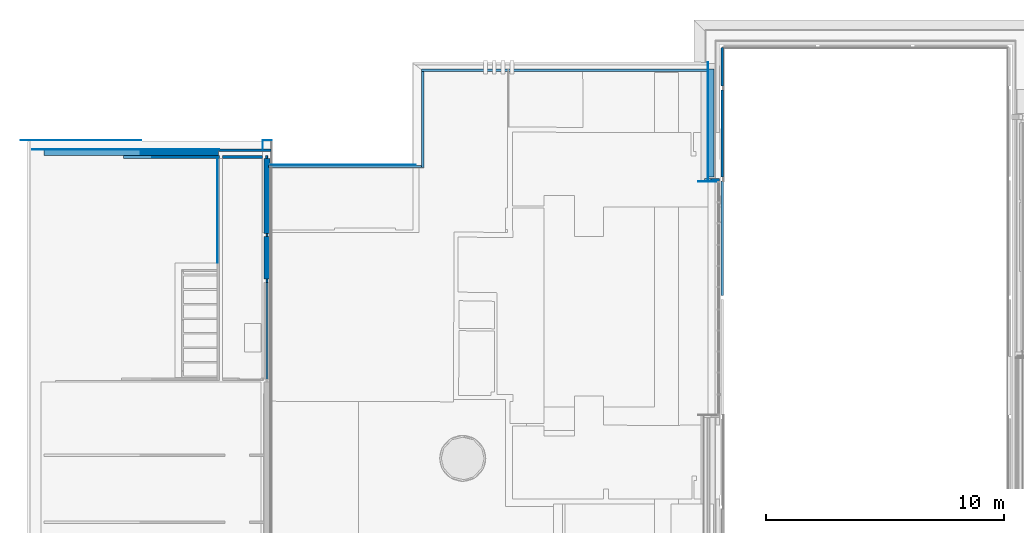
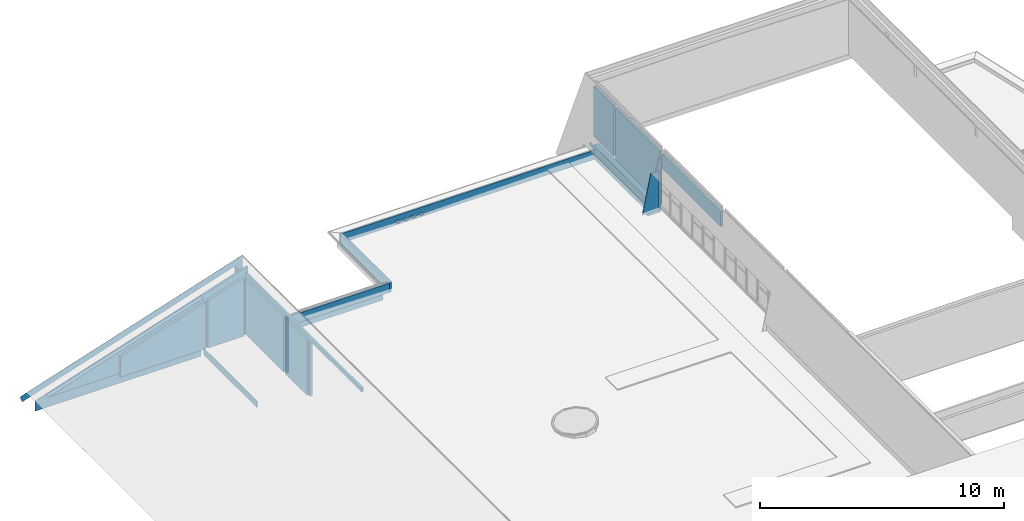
# One storey, part 36 of 66: 26 walls, 4 openings.
"""IFC2X3 building model written with IfcOpenShell, lengths in millimetres."""

from ifc_helpers import new_model, entity, si_unit, converted_unit, derived_unit, direction, frame, frame_2d, origin, place, context, subcontext, project, spatial, polyline, rectangle, outline, extrude, clip, halfspace, material, layer, layer_set, layer_usage, type_object, element, save


model = new_model("IFC2X3")

# Units and contexts
model_context = context("Model", 3, precision=0.01, world=origin(), true_north=direction((6.12303176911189e-17, 1.0)))
body_context = subcontext(model_context, "Body", "Model", "MODEL_VIEW")
ifc_project = project(units=[si_unit("LENGTHUNIT", "METRE", prefix="MILLI"), si_unit("AREAUNIT", "SQUARE_METRE"), si_unit("VOLUMEUNIT", "CUBIC_METRE"), converted_unit("PLANEANGLEUNIT", "DEGREE", entity("IfcRatioMeasure", 0.0174532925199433), si_unit("PLANEANGLEUNIT", "RADIAN"), dimensions=[0, 0, 0, 0, 0, 0, 0]), si_unit("MASSUNIT", "GRAM", prefix="KILO"), derived_unit("MASSDENSITYUNIT", [(si_unit("MASSUNIT", "GRAM", prefix="KILO"), 1), (si_unit("LENGTHUNIT", "METRE"), -3)]), derived_unit("MOMENTOFINERTIAUNIT", [(si_unit("LENGTHUNIT", "METRE"), 4)]), si_unit("TIMEUNIT", "SECOND"), si_unit("FREQUENCYUNIT", "HERTZ"), si_unit("THERMODYNAMICTEMPERATUREUNIT", "DEGREE_CELSIUS"), derived_unit("THERMALTRANSMITTANCEUNIT", [(si_unit("MASSUNIT", "GRAM", prefix="KILO"), 1), (si_unit("THERMODYNAMICTEMPERATUREUNIT", "KELVIN"), -1), (si_unit("TIMEUNIT", "SECOND"), -3)]), derived_unit("VOLUMETRICFLOWRATEUNIT", [(si_unit("LENGTHUNIT", "METRE"), 3), (si_unit("TIMEUNIT", "SECOND"), -1)]), si_unit("ELECTRICCURRENTUNIT", "AMPERE"), si_unit("ELECTRICVOLTAGEUNIT", "VOLT"), si_unit("POWERUNIT", "WATT"), si_unit("FORCEUNIT", "NEWTON", prefix="KILO"), si_unit("ILLUMINANCEUNIT", "LUX"), si_unit("LUMINOUSFLUXUNIT", "LUMEN"), si_unit("LUMINOUSINTENSITYUNIT", "CANDELA"), derived_unit("USERDEFINED", [(si_unit("MASSUNIT", "GRAM", prefix="KILO"), -1), (si_unit("LENGTHUNIT", "METRE"), -2), (si_unit("TIMEUNIT", "SECOND"), 3), (si_unit("LUMINOUSFLUXUNIT", "LUMEN"), 1)]), derived_unit("LINEARVELOCITYUNIT", [(si_unit("LENGTHUNIT", "METRE"), 1), (si_unit("TIMEUNIT", "SECOND"), -1)]), si_unit("PRESSUREUNIT", "PASCAL"), derived_unit("USERDEFINED", [(si_unit("LENGTHUNIT", "METRE"), -2), (si_unit("MASSUNIT", "GRAM", prefix="KILO"), 1), (si_unit("TIMEUNIT", "SECOND"), -2)]), derived_unit("LINEARFORCEUNIT", [(si_unit("MASSUNIT", "GRAM", prefix="KILO"), 1), (si_unit("LENGTHUNIT", "METRE"), 1), (si_unit("TIMEUNIT", "SECOND"), -2), (si_unit("LENGTHUNIT", "METRE"), -1)]), derived_unit("PLANARFORCEUNIT", [(si_unit("MASSUNIT", "GRAM", prefix="KILO"), 1), (si_unit("LENGTHUNIT", "METRE"), 1), (si_unit("TIMEUNIT", "SECOND"), -2), (si_unit("LENGTHUNIT", "METRE"), -2)])], contexts=[model_context])

# Site, building, storey
site_placement = place(None, origin())
site = spatial("IfcSite", under=ifc_project, at=site_placement, Name="Default", CompositionType="ELEMENT")
building_placement = place(site_placement, origin())
building = spatial("IfcBuilding", under=site, at=building_placement, Name="-", CompositionType="ELEMENT")
storey_placement = place(building_placement, frame((0.0, 0.0, 3070.0)))
storey = spatial("IfcBuildingStorey", under=building, at=storey_placement, Name="01 eerste verdieping", CompositionType="ELEMENT", Elevation=3070.00000000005)

# Walls
ifc_material_1 = material(Name="NLRS_f1_kalkzandsteen_CS20")
ifc_layer_1 = layer(ifc_material_1, 120.0)
ifc_layer_set_1 = layer_set([ifc_layer_1], Name="Basic Wall:NLRS_21_WA_kalkzandsteen_120mm_CS20_gen_aly")
ifc_layer_usage_1 = layer_usage(ifc_layer_set_1, "AXIS2", "POSITIVE", -60.0)
wall_type_1 = type_object("IfcWallType", Name="Basic Wall:NLRS_21_WA_kalkzandsteen_120mm_CS20_gen_aly", PredefinedType="STANDARD", material=ifc_layer_set_1)
wall_1_placement = place(storey_placement, frame((3633.34827372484, 37310.9865767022, -94.0)))
element("IfcWallStandardCase", 1, at=wall_1_placement, inside=storey, type_object=wall_type_1, material=ifc_layer_usage_1, Name="Basic Wall:NLRS_21_WA_kalkzandsteen_120mm_CS20_gen_aly", ObjectType="Basic Wall:NLRS_21_WA_kalkzandsteen_120mm_CS20_gen_aly", context=body_context, shape_type="Clipping", body=[
    clip(extrude(rectangle(XDim=4036.68199570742, YDim=119.999999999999, at=frame_2d((2018.34099785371, -7.46069872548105e-14), x_axis=(-1.0, 0.0))), origin(), (0.0, 0.0, 1.0), 2332.78274017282), halfspace(frame((0.0, -60.0, 1021.85168606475), z_axis=(-0.308874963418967, 0.0, 0.951102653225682), x_axis=(0.0, 1.0, 0.0)), False)),
])
ifc_layer_usage_2 = layer_usage(ifc_layer_set_1, "AXIS2", "POSITIVE", -60.0)
wall_2_placement = place(storey_placement, frame((7780.03026943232, 37310.9865767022, -94.0)))
element("IfcWallStandardCase", 2, at=wall_2_placement, inside=storey, type_object=wall_type_1, material=ifc_layer_usage_2, Name="Basic Wall:NLRS_21_WA_kalkzandsteen_120mm_CS20_gen_aly", ObjectType="Basic Wall:NLRS_21_WA_kalkzandsteen_120mm_CS20_gen_aly", context=body_context, shape_type="Clipping", body=[
    clip(extrude(rectangle(XDim=1692.78773486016, YDim=119.999999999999, at=frame_2d((846.393867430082, 0.0), x_axis=(-1.0, 0.0))), origin(), (0.0, 0.0, 1.0), 2918.8413293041), halfspace(frame((0.0, -60.0, 2368.92824654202), z_axis=(-0.308962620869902, 0.0, 0.951074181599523), x_axis=(0.0, 1.0, 0.0)), False)),
])
ifc_material_2 = material(Name="NLRS_i4_hout_multiplex")
ifc_layer_2 = layer(ifc_material_2, 9.0)
ifc_material_3 = material(Name="NLRS_m1_isolatie")
ifc_layer_3 = layer(ifc_material_3, 89.0)
ifc_layer_4 = layer(ifc_material_2, 9.0)
ifc_layer_set_2 = layer_set([ifc_layer_2, ifc_layer_3, ifc_layer_4], Name="Basic Wall:NLRS_21_WA_HSB-wand_110mm")
ifc_layer_usage_3 = layer_usage(ifc_layer_set_2, "AXIS2", "NEGATIVE", 53.5)
wall_type_2 = type_object("IfcWallType", Name="Basic Wall:NLRS_21_WA_HSB-wand_110mm", PredefinedType="STANDARD", material=ifc_layer_set_2)
wall_3_placement = place(storey_placement, frame((28025.9009154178, 36342.555345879, 0.0)))
element("IfcWallStandardCase", 3, at=wall_3_placement, inside=storey, type_object=wall_type_2, material=ifc_layer_usage_3, Name="Basic Wall:NLRS_21_WA_HSB-wand_110mm", ObjectType="Basic Wall:NLRS_21_WA_HSB-wand_110mm", context=body_context, shape_type="Clipping", body=[
    clip(clip(extrude(rectangle(XDim=632.099084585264, YDim=107.000000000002, at=frame_2d((316.049542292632, 0.0), x_axis=(-1.0, 0.0))), origin(), (0.0, 0.0, 1.0), 2714.0), halfspace(frame((0.0, -53.5000000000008, 0.0), z_axis=(-0.979575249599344, 0.0, 0.201077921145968), x_axis=(0.0, 1.0, 0.0)), False)), halfspace(frame((557.104192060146, -53.5000000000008, 2714.0), z_axis=(0.0, 0.0, 1.0), x_axis=(0.0, 1.0, 0.0)), False)),
])
ifc_layer_usage_4 = layer_usage(ifc_layer_set_2, "AXIS2", "POSITIVE", -53.5)
wall_4_placement = place(storey_placement, frame((28761.5007123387, 36465.8619953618, 245.0), z_axis=(0.0, 0.0, 1.0), x_axis=(0.0, 1.0, 0.0)))
element("IfcWallStandardCase", 4, at=wall_4_placement, inside=storey, type_object=wall_type_2, material=ifc_layer_usage_4, Name="Basic Wall:NLRS_21_WA_HSB-wand_110mm", ObjectType="Basic Wall:NLRS_21_WA_HSB-wand_110mm", context=body_context, shape_type="SweptSolid", body=[
    extrude(rectangle(XDim=3660.0, YDim=107.000000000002, at=frame_2d((1830.0, 0.0), x_axis=(-1.0, 0.0))), origin(), (0.0, 0.0, 1.0), 2633.52593752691),
])
ifc_layer_usage_5 = layer_usage(ifc_layer_set_2, "AXIS2", "POSITIVE", -53.5)
wall_5_placement = place(storey_placement, frame((28761.500000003, 40286.8575638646, 345.0), z_axis=(0.0, 0.0, 1.0), x_axis=(0.0, 1.0, 0.0)))
element("IfcWallStandardCase", 5, at=wall_5_placement, inside=storey, type_object=wall_type_2, material=ifc_layer_usage_5, Name="Basic Wall:NLRS_21_WA_HSB-wand_110mm", ObjectType="Basic Wall:NLRS_21_WA_HSB-wand_110mm", context=body_context, shape_type="SweptSolid", body=[
    extrude(rectangle(XDim=1610.9626866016, YDim=107.000000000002, at=frame_2d((805.481343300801, -1.09068309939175e-12), x_axis=(-1.0, 0.0))), origin(), (0.0, 0.0, 1.0), 2533.52593752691),
])
ifc_layer_usage_6 = layer_usage(ifc_layer_set_2, "AXIS2", "POSITIVE", -53.5)
wall_6_placement = place(storey_placement, frame((28761.500000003, 31494.8202504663, 2143.30371120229), z_axis=(0.0, 0.0, 1.0), x_axis=(0.0, 1.0, 0.0)))
element("IfcWallStandardCase", 6, at=wall_6_placement, inside=storey, type_object=wall_type_2, material=ifc_layer_usage_6, Name="Basic Wall:NLRS_21_WA_HSB-wand_110mm", ObjectType="Basic Wall:NLRS_21_WA_HSB-wand_110mm", context=body_context, shape_type="SweptSolid", body=[
    extrude(rectangle(XDim=4811.99999999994, YDim=107.000000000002, at=frame_2d((2405.99999999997, -7.7804429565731e-13), x_axis=(-1.0, 0.0))), origin(), (0.0, 0.0, 1.0), 735.222226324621),
])
ifc_material_4 = material(Name="NLRS_g2_baksteen hf-225x105x42-10mm voeg halfsteens rood genuanceerd_gen")
ifc_layer_5 = layer(ifc_material_4, 100.0)
ifc_layer_set_3 = layer_set([ifc_layer_5], Name="Basic Wall:NLRS_20_WA_Metselwerk 100mm, Eems wf-p-0081-25")
ifc_layer_usage_7 = layer_usage(ifc_layer_set_3, "AXIS2", "POSITIVE", -50.0)
wall_type_3 = type_object("IfcWallType", Name="Basic Wall:NLRS_20_WA_Metselwerk 100mm, Eems wf-p-0081-25", PredefinedType="STANDARD", material=ifc_layer_set_3)
wall_7_placement = place(storey_placement, frame((9825.0, 37595.4865767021, -263.0), z_axis=(0.0, 0.0, 1.0), x_axis=(-1.0, 0.0, 0.0)))
element("IfcWallStandardCase", 7, at=wall_7_placement, inside=storey, type_object=wall_type_3, material=ifc_layer_usage_7, Name="Basic Wall:NLRS_20_WA_Metselwerk 100mm, Eems wf-p-0081-25", ObjectType="Basic Wall:NLRS_20_WA_Metselwerk 100mm, Eems wf-p-0081-25", context=body_context, shape_type="Clipping", body=[
    clip(extrude(rectangle(XDim=2173.65172627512, YDim=100.000000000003, at=frame_2d((1086.82586313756, 0.0), x_axis=(-1.0, 0.0))), origin(), (0.0, 0.0, 1.0), 3359.2461458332), halfspace(frame((0.0, -50.0, 3359.2461458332), z_axis=(0.309016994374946, 0.0, 0.951056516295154), x_axis=(0.0, 1.0, 0.0)), False)),
])
ifc_material_5 = material(Name="AL Houten gevelbekleding staand")
ifc_layer_6 = layer(ifc_material_5, 20.0)
ifc_layer_set_4 = layer_set([ifc_layer_6], Name="Basic Wall:NLRS_42_WA_Houten gevelbekleding staand 20mm")
ifc_layer_usage_8 = layer_usage(ifc_layer_set_4, "AXIS2", "NEGATIVE", 10.0)
wall_type_4 = type_object("IfcWallType", Name="Basic Wall:NLRS_42_WA_Houten gevelbekleding staand 20mm", PredefinedType="STANDARD", material=ifc_layer_set_4)
wall_8_placement = place(storey_placement, frame((7651.34827372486, 37624.4865767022, -678.0), z_axis=(0.0, 0.0, 1.0), x_axis=(-1.0, 0.0, 0.0)))
element("IfcWallStandardCase", 8, at=wall_8_placement, inside=storey, type_object=wall_type_4, material=ifc_layer_usage_8, Name="Basic Wall:NLRS_42_WA_Houten gevelbekleding staand 20mm", ObjectType="Basic Wall:NLRS_42_WA_Houten gevelbekleding staand 20mm", context=body_context, shape_type="Clipping", body=[
    clip(extrude(rectangle(XDim=7851.6057129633, YDim=20.0000000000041, at=frame_2d((3925.80285648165, 0.0), x_axis=(-1.0, 0.0))), origin(), (0.0, 0.0, 1.0), 3067.95673031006), halfspace(frame((0.0, -10.0, 3067.95673031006), z_axis=(0.309016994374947, 0.0, 0.951056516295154), x_axis=(0.0, 1.0, 0.0)), False)),
])

# Wall, openings
ifc_material_6 = material(Name="h7_zink zwart")
ifc_layer_7 = layer(ifc_material_6, 3.0)
ifc_layer_set_5 = layer_set([ifc_layer_7], Name="Basic Wall:NLRS_42_WA_beplating_zijkant hellend dak")
ifc_layer_usage_9 = layer_usage(ifc_layer_set_5, "AXIS2", "NEGATIVE", 1.5)
wall_type_5 = type_object("IfcWallType", Name="Basic Wall:NLRS_42_WA_beplating_zijkant hellend dak", PredefinedType="STANDARD", material=ifc_layer_set_5)
wall_9_placement = place(storey_placement, frame((9848.0, 38009.102151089, -370.0), z_axis=(0.0, 0.0, 1.0), x_axis=(-1.0, 0.0, 0.0)))
wall_9 = element("IfcWallStandardCase", 9, at=wall_9_placement, inside=storey, type_object=wall_type_5, material=ifc_layer_usage_9, Name="Basic Wall:NLRS_42_WA_beplating_zijkant hellend dak", ObjectType="Basic Wall:NLRS_42_WA_beplating_zijkant hellend dak", context=body_context, shape_type="Clipping", body=[
    clip(clip(extrude(rectangle(XDim=10532.6511361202, YDim=2.99999999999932, at=frame_2d((5266.32556806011, -4.96380714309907e-13), x_axis=(-1.0, 0.0))), origin(), (0.0, 0.0, 1.0), 3760.7684860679), halfspace(frame((0.0, -1.49999999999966, 3760.7684860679), z_axis=(0.309016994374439, 0.0, 0.951056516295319), x_axis=(0.0, 1.0, 0.0)), False)), halfspace(frame((10532.6511361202, 1.49999999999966, 338.502678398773), z_axis=(0.951056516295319, 0.0, -0.309016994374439), x_axis=(0.0, 1.0, 0.0)), False)),
])
opening_1_placement = place(wall_9_placement, origin())
element("IfcOpeningElement", 10, at=opening_1_placement, cuts=wall_9, Name="Basic Wall:NLRS_42_WA_beplating_zijkant hellend dak", ObjectType="Opening", context=body_context, shape_type="SweptSolid", body=[
    extrude(outline(polyline([(-4121.78263074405, -1105.76989291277), (7165.70600836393, -1105.76989291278), (-3043.92337761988, 2211.53978582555), (-4121.78263074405, -1105.76989291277)])), frame((3949.34654094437, -4537.61673908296, 994.675271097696), z_axis=(0.0, 1.0, 0.0), x_axis=(0.951056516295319, 0.0, -0.309016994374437)), (0.0, 0.0, 1.0), 30117.0947947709),
])
opening_2_placement = place(wall_9_placement, origin())
element("IfcOpeningElement", 11, at=opening_2_placement, cuts=wall_9, Name="Basic Wall:NLRS_42_WA_beplating_zijkant hellend dak", ObjectType="Opening", context=body_context, shape_type="SweptSolid", body=[
    extrude(rectangle(XDim=32.9527597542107, YDim=550.218991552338, at=frame_2d((-2.70006239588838e-13, 0.0), x_axis=(1.0, 0.0))), frame((275.109495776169, 1.49999999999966, -16.4763798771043), z_axis=(0.0, -1.0, 0.0), x_axis=(0.0, 0.0, 1.0)), (0.0, 0.0, 1.0), 3.0),
])

# Walls
ifc_layer_usage_10 = layer_usage(ifc_layer_set_5, "AXIS2", "NEGATIVE", 1.5)
wall_10_placement = place(storey_placement, frame((9478.5, 37620.9865767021, -370.0), z_axis=(0.0, 0.0, 1.0), x_axis=(0.0, 1.0, 0.0)))
element("IfcWallStandardCase", 12, at=wall_10_placement, inside=storey, type_object=wall_type_5, material=ifc_layer_usage_10, Name="Basic Wall:NLRS_42_WA_beplating_zijkant hellend dak", ObjectType="Basic Wall:NLRS_42_WA_beplating_zijkant hellend dak", context=body_context, shape_type="SweptSolid", body=[
    extrude(rectangle(XDim=386.615574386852, YDim=2.99999999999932, at=frame_2d((193.307787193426, -1.0502709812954e-13), x_axis=(-1.0, 0.0))), origin(), (0.0, 0.0, 1.0), 3315.3357916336),
])
ifc_material_7 = material(Name="n6_kunststof_RAL 7035")
ifc_layer_8 = layer(ifc_material_7, 10.0)
ifc_layer_set_6 = layer_set([ifc_layer_8], Name="Basic Wall:NLRS_42_WA_Trespa RAL 7035 - 10mm")
ifc_layer_usage_11 = layer_usage(ifc_layer_set_6, "AXIS2", "NEGATIVE", 5.0)
wall_type_6 = type_object("IfcWallType", Name="Basic Wall:NLRS_42_WA_Trespa RAL 7035 - 10mm", PredefinedType="STANDARD", material=ifc_layer_set_6)
wall_11_placement = place(storey_placement, frame((9825.0, 36986.9865767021, -370.0)))
element("IfcWallStandardCase", 13, at=wall_11_placement, inside=storey, type_object=wall_type_6, material=ifc_layer_usage_11, Name="Basic Wall:NLRS_42_WA_Trespa RAL 7035 - 10mm", ObjectType="Basic Wall:NLRS_42_WA_Trespa RAL 7035 - 10mm", context=body_context, shape_type="SweptSolid", body=[
    extrude(rectangle(XDim=6070.0000000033, YDim=9.99999999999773, at=frame_2d((3035.00000000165, 0.0), x_axis=(-1.0, 0.0))), origin(), (0.0, 0.0, 1.0), 839.099999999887),
])

# Wall, opening
ifc_layer_9 = layer(ifc_material_3, 89.0)
ifc_layer_10 = layer(ifc_material_2, 9.0)
ifc_layer_set_7 = layer_set([ifc_layer_9, ifc_layer_10], Name="Basic Wall:NLRS_21_WA_HSB-wand_98mm")
ifc_layer_usage_12 = layer_usage(ifc_layer_set_7, "AXIS2", "NEGATIVE", 49.0)
wall_type_7 = type_object("IfcWallType", Name="Basic Wall:NLRS_21_WA_HSB-wand_98mm", PredefinedType="STANDARD", material=ifc_layer_set_7)
wall_12_placement = place(storey_placement, frame((16140.0, 40944.7541561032, 0.0)))
wall_12 = element("IfcWallStandardCase", 14, at=wall_12_placement, inside=storey, type_object=wall_type_7, material=ifc_layer_usage_12, Name="Basic Wall:NLRS_21_WA_HSB-wand_98mm", ObjectType="Basic Wall:NLRS_21_WA_HSB-wand_98mm", context=body_context, shape_type="SweptSolid", body=[
    extrude(rectangle(XDim=12033.23013131, YDim=97.999999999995, at=frame_2d((6016.61506565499, 0.0), x_axis=(-1.0, 0.0))), origin(), (0.0, 0.0, 1.0), 469.100000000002),
])
opening_3_placement = place(wall_12_placement, origin())
element("IfcOpeningElement", 15, at=opening_3_placement, cuts=wall_12, Name="Basic Wall:NLRS_21_WA_HSB-wand_98mm", ObjectType="Opening", context=body_context, shape_type="SweptSolid", body=[
    extrude(rectangle(XDim=59.9999999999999, YDim=160.000000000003, at=frame_2d((-2.71782596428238e-13, 0.0), x_axis=(1.0, 0.0))), frame((3058.0, -305.0, 178.000767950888), z_axis=(0.0, 1.0, 0.0), x_axis=(0.0, 0.0, -1.0)), (0.0, 0.0, 1.0), 854.719401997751),
    extrude(rectangle(XDim=59.9999999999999, YDim=160.000000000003, at=frame_2d((4.33431068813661e-12, 2.71782596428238e-13), x_axis=(0.0, 1.0))), frame((3428.0, -305.0, 178.000767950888), z_axis=(0.0, 1.0, 0.0), x_axis=(1.0, 0.0, 0.0)), (0.0, 0.0, 1.0), 854.719401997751),
    extrude(rectangle(XDim=59.9999999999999, YDim=160.000000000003, at=frame_2d((2.71782596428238e-13, 2.16715534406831e-12), x_axis=(1.0, 0.0))), frame((3798.0, -305.0, 178.000767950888), z_axis=(0.0, 1.0, 0.0), x_axis=(0.0, 0.0, -1.0)), (0.0, 0.0, 1.0), 854.719401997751),
    extrude(rectangle(XDim=59.9999999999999, YDim=160.000000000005, at=frame_2d((-1.08002495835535e-12, -2.71782596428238e-13), x_axis=(0.0, 1.0))), frame((2688.0, -305.0, 178.000767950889), z_axis=(0.0, 1.0, 0.0), x_axis=(1.0, 0.0, 0.0)), (0.0, 0.0, 1.0), 854.719401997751),
])

# Walls
ifc_layer_usage_13 = layer_usage(ifc_layer_set_7, "AXIS2", "NEGATIVE", 49.0)
wall_13_placement = place(storey_placement, frame((16189.0, 36856.9865767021, 0.0), z_axis=(0.0, 0.0, 1.0), x_axis=(0.0, 1.0, 0.0)))
element("IfcWallStandardCase", 16, at=wall_13_placement, inside=storey, type_object=wall_type_7, material=ifc_layer_usage_13, Name="Basic Wall:NLRS_21_WA_HSB-wand_98mm", ObjectType="Basic Wall:NLRS_21_WA_HSB-wand_98mm", context=body_context, shape_type="SweptSolid", body=[
    extrude(rectangle(XDim=4038.76757940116, YDim=97.9999999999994, at=frame_2d((2019.38378970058, -5.89750470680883e-13), x_axis=(-1.0, 0.0))), origin(), (0.0, 0.0, 1.0), 469.100000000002),
])
ifc_layer_usage_14 = layer_usage(ifc_layer_set_7, "AXIS2", "NEGATIVE", 49.0)
wall_14_placement = place(storey_placement, frame((9713.0, 36905.9865767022, 0.0)))
element("IfcWallStandardCase", 17, at=wall_14_placement, inside=storey, type_object=wall_type_7, material=ifc_layer_usage_14, Name="Basic Wall:NLRS_21_WA_HSB-wand_98mm", ObjectType="Basic Wall:NLRS_21_WA_HSB-wand_98mm", context=body_context, shape_type="SweptSolid", body=[
    extrude(rectangle(XDim=6427.0000000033, YDim=98.0000000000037, at=frame_2d((3213.50000000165, -1.22568621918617e-12), x_axis=(-1.0, 0.0))), origin(), (0.0, 0.0, 1.0), 469.100000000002),
])
ifc_layer_usage_15 = layer_usage(ifc_layer_set_7, "AXIS2", "NEGATIVE", 49.0)
wall_15_placement = place(storey_placement, frame((9786.0, 36906.9865767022, 0.0)))
element("IfcWallStandardCase", 18, at=wall_15_placement, inside=storey, type_object=wall_type_7, material=ifc_layer_usage_15, Name="Basic Wall:NLRS_21_WA_HSB-wand_98mm", ObjectType="Basic Wall:NLRS_21_WA_HSB-wand_98mm", context=body_context, shape_type="SweptSolid", body=[
    extrude(rectangle(XDim=6354.00000000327, YDim=98.0000000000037, at=frame_2d((3177.00000000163, -5.79092329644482e-13), x_axis=(-1.0, 0.0))), origin(), (0.0, 0.0, 1.0), 469.100000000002),
])
ifc_layer_11 = layer(ifc_material_2, 18.0)
ifc_layer_set_8 = layer_set([ifc_layer_11], Name="Basic Wall:NLRS_41_WA_plaatmateriaal 18mm_gen_aly")
ifc_layer_usage_16 = layer_usage(ifc_layer_set_8, "AXIS2", "NEGATIVE", 9.0)
wall_type_8 = type_object("IfcWallType", Name="Basic Wall:NLRS_41_WA_plaatmateriaal 18mm_gen_aly", PredefinedType="STANDARD", material=ifc_layer_set_8)
wall_16_placement = place(storey_placement, frame((27757.5921087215, 36280.055345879, 140.0)))
element("IfcWallStandardCase", 19, at=wall_16_placement, inside=storey, type_object=wall_type_8, material=ifc_layer_usage_16, Name="Basic Wall:NLRS_41_WA_plaatmateriaal 18mm_gen_aly", ObjectType="Basic Wall:NLRS_41_WA_plaatmateriaal 18mm_gen_aly", context=body_context, shape_type="Clipping", body=[
    clip(extrude(rectangle(XDim=803.407891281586, YDim=17.9999999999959, at=frame_2d((401.703945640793, 0.0), x_axis=(-1.0, 0.0))), origin(), (0.0, 0.0, 1.0), 1965.30371120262), halfspace(frame((0.0, -9.0, 0.0), z_axis=(-0.979575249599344, 0.0, 0.201077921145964), x_axis=(0.0, 1.0, 0.0)), False)),
])
ifc_layer_12 = layer(ifc_material_2, 10.0)
ifc_layer_13 = layer(ifc_material_3, 235.0)
ifc_layer_14 = layer(ifc_material_2, 10.0)
ifc_layer_set_9 = layer_set([ifc_layer_12, ifc_layer_13, ifc_layer_14], Name="Basic Wall:NLRS_21_WA_HSB-wand_268mm (zonder gips)")
ifc_layer_usage_17 = layer_usage(ifc_layer_set_9, "AXIS2", "NEGATIVE", 127.5)
wall_type_9 = type_object("IfcWallType", Name="Basic Wall:NLRS_21_WA_HSB-wand_268mm (zonder gips)", PredefinedType="STANDARD", material=ifc_layer_set_9)
wall_17_placement = place(storey_placement, frame((9658.5, 37240.9865767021, 0.0), z_axis=(0.0, 0.0, 1.0), x_axis=(0.0, -1.0, 0.0)))
element("IfcWallStandardCase", 20, at=wall_17_placement, inside=storey, type_object=wall_type_9, material=ifc_layer_usage_17, Name="Basic Wall:NLRS_21_WA_HSB-wand_268mm (zonder gips)", ObjectType="Basic Wall:NLRS_21_WA_HSB-wand_268mm (zonder gips)", context=body_context, shape_type="SweptSolid", body=[
    extrude(rectangle(XDim=3133.87320527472, YDim=255.000000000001, at=frame_2d((1566.93660263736, 7.105427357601e-14), x_axis=(-1.0, 0.0))), origin(), (0.0, 0.0, 1.0), 2759.99999999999),
])
ifc_layer_usage_18 = layer_usage(ifc_layer_set_9, "AXIS2", "NEGATIVE", 127.5)
wall_18_placement = place(storey_placement, frame((9658.49999999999, 33967.1133714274, 0.0), z_axis=(0.0, 0.0, 1.0), x_axis=(0.0, -1.0, 0.0)))
element("IfcWallStandardCase", 21, at=wall_18_placement, inside=storey, type_object=wall_type_9, material=ifc_layer_usage_18, Name="Basic Wall:NLRS_21_WA_HSB-wand_268mm (zonder gips)", ObjectType="Basic Wall:NLRS_21_WA_HSB-wand_268mm (zonder gips)", context=body_context, shape_type="SweptSolid", body=[
    extrude(rectangle(XDim=1778.7172156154, YDim=255.000000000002, at=frame_2d((889.358607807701, 5.6843418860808e-13), x_axis=(-1.0, 0.0))), origin(), (0.0, 0.0, 1.0), 2759.99999999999),
])
ifc_layer_15 = layer(ifc_material_3, 200.0)
ifc_layer_set_10 = layer_set([ifc_layer_15], Name="Basic Wall:NLRS_21_WA_isolatie glaswol_200mm_gen_aly")
ifc_layer_usage_19 = layer_usage(ifc_layer_set_10, "AXIS2", "NEGATIVE", 100.0)
wall_type_10 = type_object("IfcWallType", Name="Basic Wall:NLRS_21_WA_isolatie glaswol_200mm_gen_aly", PredefinedType="STANDARD", material=ifc_layer_set_10)
wall_19_placement = place(storey_placement, frame((295.734209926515, 37470.9865767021, 0.0)))
element("IfcWallStandardCase", 22, at=wall_19_placement, inside=storey, type_object=wall_type_10, material=ifc_layer_usage_19, Name="Basic Wall:NLRS_21_WA_isolatie glaswol_200mm_gen_aly", ObjectType="Basic Wall:NLRS_21_WA_isolatie glaswol_200mm_gen_aly", context=body_context, shape_type="Clipping", body=[
    clip(extrude(rectangle(XDim=7333.61406379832, YDim=199.999999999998, at=frame_2d((3666.80703189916, 4.19220214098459e-13), x_axis=(-1.0, 0.0))), origin(), (0.0, 0.0, 1.0), 2382.83565389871), halfspace(frame((0.0, -100.0, 0.0), z_axis=(-0.309016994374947, 0.0, 0.951056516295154), x_axis=(0.0, 1.0, 0.0)), False)),
])

# Wall, opening
ifc_material_8 = material(Name="n2_bitumen_dak bedekking")
ifc_layer_16 = layer(ifc_material_8, 6.0)
ifc_layer_set_11 = layer_set([ifc_layer_16], Name="Basic Wall:47.11_2 laagse APP dakbedekking")
ifc_layer_usage_20 = layer_usage(ifc_layer_set_11, "AXIS2", "NEGATIVE", 3.0)
wall_type_11 = type_object("IfcWallType", Name="Basic Wall:47.11_2 laagse APP dakbedekking", PredefinedType="STANDARD", material=ifc_layer_set_11)
wall_20_placement = place(storey_placement, frame((28170.2301313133, 36289.055345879, 263.661427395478), z_axis=(0.0, 0.0, 1.0), x_axis=(0.0, 1.0, 0.0)))
wall_20 = element("IfcWallStandardCase", 23, at=wall_20_placement, inside=storey, type_object=wall_type_11, material=ifc_layer_usage_20, Name="Basic Wall:47.11_2 laagse APP dakbedekking", ObjectType="Basic Wall:47.11_2 laagse APP dakbedekking", context=body_context, shape_type="SweptSolid", body=[
    extrude(rectangle(XDim=4996.69881022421, YDim=5.99999999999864, at=frame_2d((2498.34940511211, -2.8688162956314e-13), x_axis=(-1.0, 0.0))), origin(), (0.0, 0.0, 1.0), 398.621049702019),
])
opening_4_placement = place(wall_20_placement, origin())
element("IfcOpeningElement", 24, at=opening_4_placement, cuts=wall_20, Name="Basic Wall:47.11_2 laagse APP dakbedekking", ObjectType="Opening", context=body_context, shape_type="SweptSolid", body=[
    extrude(rectangle(XDim=226.338572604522, YDim=393.00000000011, at=frame_2d((4.33431068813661e-12, 0.0), x_axis=(0.0, 1.0))), frame((4800.19881022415, 3.0, 113.169286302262), z_axis=(0.0, -1.0, 0.0), x_axis=(1.0, 0.0, 0.0)), (0.0, 0.0, 1.0), 6.00000000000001),
])

# Walls
ifc_material_9 = material(Name="NLRS_n7_isolatie PIR_gen")
ifc_layer_17 = layer(ifc_material_9, 100.0)
ifc_layer_set_12 = layer_set([ifc_layer_17], Name="Basic Wall:NLRS_22_WA_LB_isolatie PIR 100mm")
ifc_layer_usage_21 = layer_usage(ifc_layer_set_12, "AXIS2", "NEGATIVE", 50.0)
wall_type_12 = type_object("IfcWallType", Name="Basic Wall:NLRS_22_WA_LB_isolatie PIR 100mm", PredefinedType="STANDARD", material=ifc_layer_set_12)
wall_21_placement = place(storey_placement, frame((9656.49941249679, 32188.396155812, 0.0), z_axis=(0.0, 0.0, 1.0), x_axis=(0.0, -1.0, 0.0)))
element("IfcWallStandardCase", 25, at=wall_21_placement, inside=storey, type_object=wall_type_12, material=ifc_layer_usage_21, Name="Basic Wall:NLRS_22_WA_LB_isolatie PIR 100mm", ObjectType="Basic Wall:NLRS_22_WA_LB_isolatie PIR 100mm", context=body_context, shape_type="SweptSolid", body=[
    extrude(rectangle(XDim=139.999999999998, YDim=99.9999999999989, at=frame_2d((69.9999999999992, 3.09086090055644e-13), x_axis=(-1.0, 0.0))), origin(), (0.0, 0.0, 1.0), 2760.0),
])
ifc_layer_usage_22 = layer_usage(ifc_layer_set_12, "AXIS2", "NEGATIVE", 50.0)
wall_22_placement = place(storey_placement, frame((9636.49999999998, 37370.9865767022, 0.0), z_axis=(0.0, 0.0, 1.0), x_axis=(0.0, -1.0, 0.0)))
element("IfcWallStandardCase", 26, at=wall_22_placement, inside=storey, type_object=wall_type_12, material=ifc_layer_usage_22, Name="Basic Wall:NLRS_22_WA_LB_isolatie PIR 100mm", ObjectType="Basic Wall:NLRS_22_WA_LB_isolatie PIR 100mm", context=body_context, shape_type="SweptSolid", body=[
    extrude(rectangle(XDim=130.000000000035, YDim=100.000000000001, at=frame_2d((65.0000000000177, -2.55795384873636e-13), x_axis=(-1.0, 0.0))), origin(), (0.0, 0.0, 1.0), 2666.86252473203),
])
ifc_layer_usage_23 = layer_usage(ifc_layer_set_12, "AXIS2", "NEGATIVE", 50.0)
wall_23_placement = place(storey_placement, frame((9658.0, 37370.9865767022, 2760.0), z_axis=(0.0, 0.0, 1.0), x_axis=(0.0, -1.0, 0.0)))
element("IfcWallStandardCase", 27, at=wall_23_placement, inside=storey, type_object=wall_type_12, material=ifc_layer_usage_23, Name="Basic Wall:NLRS_22_WA_LB_isolatie PIR 100mm", ObjectType="Basic Wall:NLRS_22_WA_LB_isolatie PIR 100mm", context=body_context, shape_type="SweptSolid", body=[
    extrude(rectangle(XDim=9515.00000000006, YDim=99.9999999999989, at=frame_2d((4757.50000000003, -4.2632564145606e-14), x_axis=(-1.0, 0.0))), origin(), (0.0, 0.0, 1.0), 202.72375400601),
])
ifc_layer_usage_24 = layer_usage(ifc_layer_set_12, "AXIS2", "NEGATIVE", 50.0)
wall_24_placement = place(storey_placement, frame((9656.49941249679, 34107.1133714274, 0.0), z_axis=(0.0, 0.0, 1.0), x_axis=(0.0, -1.0, 0.0)))
element("IfcWallStandardCase", 28, at=wall_24_placement, inside=storey, type_object=wall_type_12, material=ifc_layer_usage_24, Name="Basic Wall:NLRS_22_WA_LB_isolatie PIR 100mm", ObjectType="Basic Wall:NLRS_22_WA_LB_isolatie PIR 100mm", context=body_context, shape_type="SweptSolid", body=[
    extrude(rectangle(XDim=139.999999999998, YDim=100.000000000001, at=frame_2d((69.9999999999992, 3.09086090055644e-13), x_axis=(-1.0, 0.0))), origin(), (0.0, 0.0, 1.0), 2760.0),
])
ifc_material_10 = material(Name="NLRS_i4_hout_multiplex zwart")
ifc_layer_18 = layer(ifc_material_10, 15.0)
ifc_layer_set_13 = layer_set([ifc_layer_18], Name="Basic Wall:NLRS_41_WA_plaatmateriaal 15mm zwart")
ifc_layer_usage_25 = layer_usage(ifc_layer_set_13, "AXIS2", "POSITIVE", -7.5)
wall_type_13 = type_object("IfcWallType", Name="Basic Wall:NLRS_41_WA_plaatmateriaal 15mm zwart", PredefinedType="STANDARD", material=ifc_layer_set_13)
wall_25_placement = place(storey_placement, frame((7575.03026943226, 37250.9865767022, -355.842202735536), z_axis=(0.0, 0.0, 1.0), x_axis=(0.0, -1.0, 0.0)))
element("IfcWallStandardCase", 29, at=wall_25_placement, inside=storey, type_object=wall_type_13, material=ifc_layer_usage_25, Name="Basic Wall:NLRS_41_WA_plaatmateriaal 15mm zwart", ObjectType="Basic Wall:NLRS_41_WA_plaatmateriaal 15mm zwart", context=body_context, shape_type="SweptSolid", body=[
    extrude(rectangle(XDim=4385.00000000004, YDim=15.0000000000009, at=frame_2d((2192.50000000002, 0.0), x_axis=(-1.0, 0.0))), origin(), (0.0, 0.0, 1.0), 337.842202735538),
])
ifc_layer_19 = layer(ifc_material_2, 10.0)
ifc_layer_20 = layer(ifc_material_3, 235.0)
ifc_layer_21 = layer(ifc_material_2, 10.0)
ifc_layer_set_14 = layer_set([ifc_layer_19, ifc_layer_20, ifc_layer_21], Name="Basic Wall:NLRS_21_WA_HSB-wand onderaansluiting sandwichpaneel")
ifc_layer_usage_26 = layer_usage(ifc_layer_set_14, "AXIS2", "NEGATIVE", 127.5)
wall_type_14 = type_object("IfcWallType", Name="Basic Wall:NLRS_21_WA_HSB-wand onderaansluiting sandwichpaneel", PredefinedType="STANDARD", material=ifc_layer_set_14)
wall_26_placement = place(storey_placement, frame((28300.7301313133, 36464.8202504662, 0.0), z_axis=(0.0, 0.0, 1.0), x_axis=(0.0, 1.0, 0.0)))
element("IfcWallStandardCase", 30, at=wall_26_placement, inside=storey, type_object=wall_type_14, material=ifc_layer_usage_26, Name="Basic Wall:NLRS_21_WA_HSB-wand onderaansluiting sandwichpaneel", ObjectType="Basic Wall:NLRS_21_WA_HSB-wand onderaansluiting sandwichpaneel", context=body_context, shape_type="SweptSolid", body=[
    extrude(rectangle(XDim=4528.93390563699, YDim=255.000000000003, at=frame_2d((2264.4669528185, 0.0), x_axis=(-1.0, 0.0))), origin(), (0.0, 0.0, 1.0), 662.282477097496),
])

save(model, "model.ifc")
